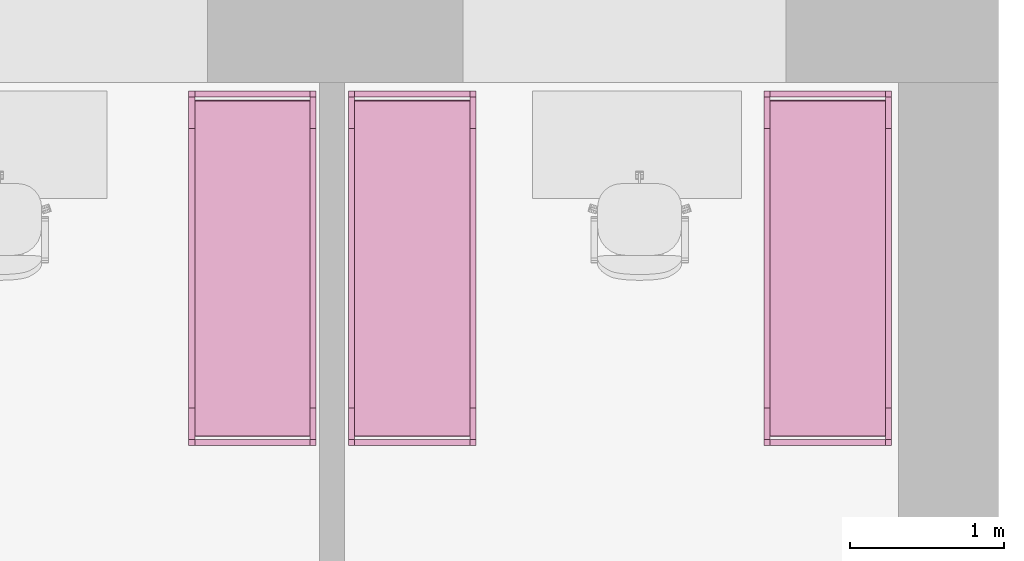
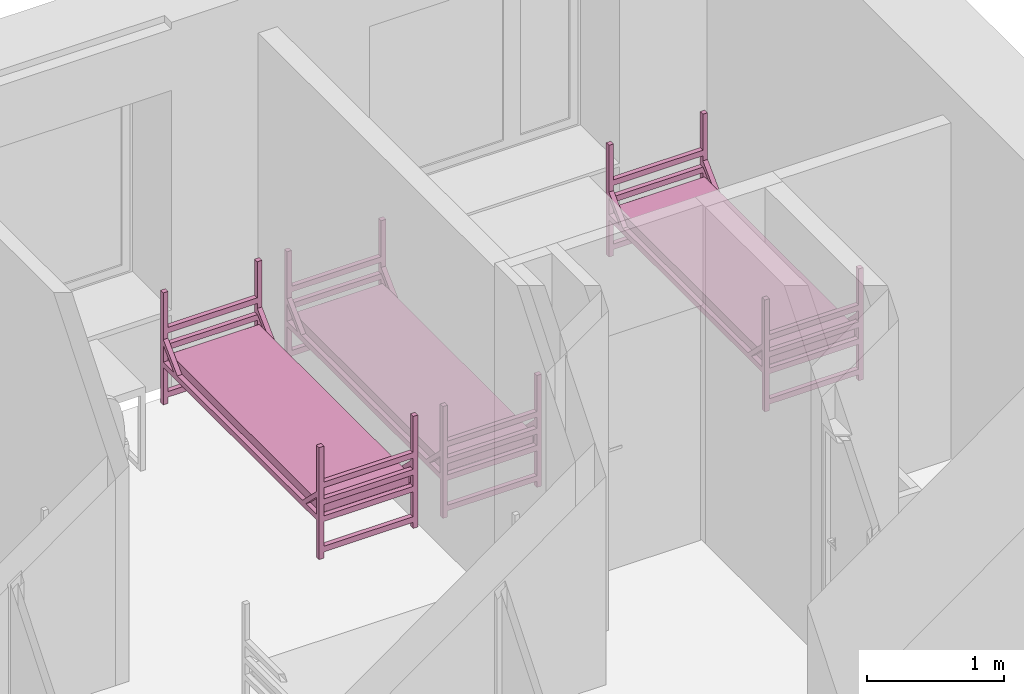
# One storey, part 46 of 48: 3 furnishings.
"""IFC2X3 building model written with IfcOpenShell, lengths in millimetres."""

import ifcopenshell
import ifcopenshell.guid

model = None  # the IFC model being written
_history = None  # IfcOwnerHistory: only IFC2X3 demands one
_inside = {}  # id of a spatial element -> (the spatial element, [elements in it])
_under = {}  # id of a project, library or spatial element -> (it, [spatial elements below it])
_declared = {}  # id of a project -> (the project, [libraries it declares])
_typed = {}  # id of a type object -> (the type object, [elements of that type])
_made_of = {}  # id of a material, layer set ... -> (it, [elements and type objects made of it])


def new_model(schema):
    """Start an empty IFC model of exactly this schema.

    Asked for "IFC4X3", IfcOpenShell would pick the latest addendum, in which some entities
    have other attributes; the version numbers below select the first issue.
    IFC2X3 requires an IfcOwnerHistory on every rooted entity: one is made here for all.
    """
    global model, _history
    if schema == "IFC4X3":
        model = ifcopenshell.file(schema_version=(4, 3, 0, 0))
    else:
        model = ifcopenshell.file(schema=schema)
    _inside.clear()
    _under.clear()
    _declared.clear()
    _typed.clear()
    _made_of.clear()
    _history = None
    if model.schema == "IFC2X3":
        org = make("IfcOrganization", Name="unknown")
        user = make(
            "IfcPersonAndOrganization",
            ThePerson=make("IfcPerson", FamilyName="unknown"),
            TheOrganization=org,
        )
        app = make(
            "IfcApplication",
            ApplicationDeveloper=org,
            Version="unknown",
            ApplicationFullName="unknown",
            ApplicationIdentifier="unknown",
        )
        _history = make(
            "IfcOwnerHistory",
            OwningUser=user,
            OwningApplication=app,
            ChangeAction="ADDED",
            CreationDate=0,
        )
    return model


def make(cls, **values):
    """One entity of the class cls with the attributes given. An attribute that is None is left unset."""
    return model.create_entity(
        cls, **{name: value for name, value in values.items() if value is not None}
    )


def entity(cls, *values):
    """Any entity or typed value of the class cls, its attributes in the order of the schema. None: left unset."""
    e = model.create_entity(cls)
    for i, value in enumerate(values):
        if value is not None:
            e[i] = value
    return e


def rooted(cls, **values):
    """An entity with a GlobalId (a new one), such as an element, a storey or a relation."""
    return make(cls, GlobalId=ifcopenshell.guid.new(), OwnerHistory=_history, **values)


def si_unit(unit_type, name, prefix=None):
    """IfcSIUnit, for example si_unit("LENGTHUNIT", "METRE", prefix="MILLI")."""
    return make("IfcSIUnit", UnitType=unit_type, Prefix=prefix, Name=name)


def converted_unit(unit_type, name, factor, base, dimensions=None, offset=None):
    """IfcConversionBasedUnit, such as the inch: factor (a typed value) times the base unit."""
    return make(
        "IfcConversionBasedUnit"
        if offset is None
        else "IfcConversionBasedUnitWithOffset",
        ConversionOffset=offset,
        Dimensions=None
        if dimensions is None
        else entity("IfcDimensionalExponents", *dimensions),
        UnitType=unit_type,
        Name=name,
        ConversionFactor=make(
            "IfcMeasureWithUnit", ValueComponent=factor, UnitComponent=base
        ),
    )


def derived_unit(unit_type, elements):
    """IfcDerivedUnit: a product of units, each with its exponent."""
    return make(
        "IfcDerivedUnit",
        Elements=[
            make("IfcDerivedUnitElement", Unit=unit, Exponent=power)
            for unit, power in elements
        ],
        UnitType=unit_type,
    )


def assignment(units):
    """IfcUnitAssignment: the units of a project."""
    return None if units is None else make("IfcUnitAssignment", Units=units)


def point(xyz):
    """IfcCartesianPoint."""
    return None if xyz is None else make("IfcCartesianPoint", Coordinates=xyz)


def direction(xyz):
    """IfcDirection."""
    return None if xyz is None else make("IfcDirection", DirectionRatios=xyz)


def frame(location, z_axis=None, x_axis=None):
    """IfcAxis2Placement3D, a coordinate frame: its origin and axes. An axis left out is left unset."""
    return make(
        "IfcAxis2Placement3D",
        Location=point(location),
        Axis=direction(z_axis),
        RefDirection=direction(x_axis),
    )


def frame_2d(location, x_axis=None):
    """IfcAxis2Placement2D, a coordinate frame in the plane: its origin and x axis."""
    return make(
        "IfcAxis2Placement2D", Location=point(location), RefDirection=direction(x_axis)
    )


def origin():
    """The frame at (0, 0, 0) with its axes left unset."""
    return frame((0.0, 0.0, 0.0))


def origin_2d_with_axis():
    """The frame at (0, 0) in the plane with the x axis (1, 0) written out."""
    return frame_2d((0.0, 0.0), x_axis=(1.0, 0.0))


def place(relative_to, where):
    """IfcLocalPlacement: puts the frame where relative to a parent placement (None: the world)."""
    return make(
        "IfcLocalPlacement", PlacementRelTo=relative_to, RelativePlacement=where
    )


def context(
    kind, dimensions, precision=None, world=None, true_north=None, identifier=None
):
    """IfcGeometricRepresentationContext, for example the 3D "Model" context."""
    return make(
        "IfcGeometricRepresentationContext",
        ContextIdentifier=identifier,
        ContextType=kind,
        CoordinateSpaceDimension=dimensions,
        Precision=precision,
        WorldCoordinateSystem=world,
        TrueNorth=true_north,
    )


def subcontext(parent, identifier, kind, view, scale=None):
    """IfcGeometricRepresentationSubContext, for example "Body" below "Model"."""
    return make(
        "IfcGeometricRepresentationSubContext",
        ContextIdentifier=identifier,
        ContextType=kind,
        ParentContext=parent,
        TargetScale=scale,
        TargetView=view,
    )


def project(units=None, contexts=None):
    """IfcProject with its units and contexts."""
    return rooted(
        "IfcProject",
        Name="project",
        RepresentationContexts=contexts,
        UnitsInContext=assignment(units),
    )


def spatial(cls, under=None, at=None, **own):
    """A site, building, storey or space (cls), placed at a placement, below another one or the project."""
    s = rooted(cls, ObjectPlacement=at, **own)
    if under is not None:
        _under.setdefault(under.id(), (under, []))[1].append(s)
    return s


def polyline(points):
    """IfcPolyline through the points."""
    return make("IfcPolyline", Points=[point(p) for p in points])


def circle_curve(where, radius):
    """IfcCircle in the frame where."""
    return make("IfcCircle", Position=where, Radius=radius)


def parameter(value):
    """IfcParameterValue: where a trimmed curve begins or ends, as a parameter of its basis curve."""
    return model.create_entity("IfcParameterValue", value)


def trimmed(basis, trim1, trim2, sense, master):
    """IfcTrimmedCurve: the piece of a basis curve between two trims."""
    return make(
        "IfcTrimmedCurve",
        BasisCurve=basis,
        Trim1=trim1,
        Trim2=trim2,
        SenseAgreement=sense,
        MasterRepresentation=master,
    )


def segment(curve, same_sense, transition):
    """IfcCompositeCurveSegment."""
    return make(
        "IfcCompositeCurveSegment",
        Transition=transition,
        SameSense=same_sense,
        ParentCurve=curve,
    )


def composite_curve(segments, self_intersect=None):
    """IfcCompositeCurve: segments joined end to end."""
    return make("IfcCompositeCurve", Segments=segments, SelfIntersect=self_intersect)


def profile(cls, at=None, kind="AREA", **sizes):
    """A parametric profile (cls). Its sizes go by their IFC names, for example OverallWidth=200.0."""
    return make(cls, ProfileType=kind, Position=at, **sizes)


def rectangle(**sizes):
    """IfcRectangleProfileDef."""
    return profile("IfcRectangleProfileDef", **sizes)


def outline(outer, holes=None, kind="AREA"):
    """IfcArbitraryClosedProfileDef: a profile drawn as a closed curve; with holes, ...WithVoids."""
    if holes is None:
        return make("IfcArbitraryClosedProfileDef", ProfileType=kind, OuterCurve=outer)
    return make(
        "IfcArbitraryProfileDefWithVoids",
        ProfileType=kind,
        OuterCurve=outer,
        InnerCurves=holes,
    )


def extrude(swept, where, along, depth):
    """IfcExtrudedAreaSolid: the profile swept, set in the frame where, extruded along a direction by depth."""
    return make(
        "IfcExtrudedAreaSolid",
        SweptArea=swept,
        Position=where,
        ExtrudedDirection=direction(along),
        Depth=depth,
    )


def shape(context_of_items, identifier, shape_type, items):
    """IfcShapeRepresentation: the items that make up one representation, for example the "Body"."""
    return make(
        "IfcShapeRepresentation",
        ContextOfItems=context_of_items,
        RepresentationIdentifier=identifier,
        RepresentationType=shape_type,
        Items=items,
    )


def source(mapping_origin, context_of_items, identifier, shape_type, items):
    """IfcRepresentationMap: a shape defined once, which mapped items show again and again."""
    return make(
        "IfcRepresentationMap",
        MappingOrigin=mapping_origin,
        MappedRepresentation=shape(context_of_items, identifier, shape_type, items),
    )


def transform(
    local_origin,
    x_axis=None,
    y_axis=None,
    z_axis=None,
    scale=None,
    scale2=None,
    scale3=None,
    uniform=True,
):
    """IfcCartesianTransformationOperator3D, or its non-uniform kind. x_axis, y_axis, z_axis: its Axis1, 2, 3."""
    if uniform:
        return make(
            "IfcCartesianTransformationOperator3D",
            Axis1=direction(x_axis),
            Axis2=direction(y_axis),
            LocalOrigin=point(local_origin),
            Scale=scale,
            Axis3=direction(z_axis),
        )
    return make(
        "IfcCartesianTransformationOperator3DnonUniform",
        Axis1=direction(x_axis),
        Axis2=direction(y_axis),
        LocalOrigin=point(local_origin),
        Scale=scale,
        Axis3=direction(z_axis),
        Scale2=scale2,
        Scale3=scale3,
    )


def mapped(mapping_source, mapping_target):
    """IfcMappedItem: shows the shape of a source again, moved by a transform."""
    return make(
        "IfcMappedItem", MappingSource=mapping_source, MappingTarget=mapping_target
    )


def material(Name=None, Category=None):
    """IfcMaterial."""
    return make("IfcMaterial", Name=Name, Category=Category)


def made_of(thing, what):
    """Note that an element or type object is made of a material, layer set ...; save() writes the relation."""
    if what is not None:
        _made_of.setdefault(what.id(), (what, []))[1].append(thing)
    return thing


def type_object(cls, material=None, **own):
    """A type object (cls), such as IfcWallType, which elements share."""
    return made_of(rooted(cls, **own), material)


def type_shapes(of_type, sources):
    """Give a type object the sources (RepresentationMaps) that its elements show as mapped items."""
    of_type.RepresentationMaps = sources


def element(
    cls,
    number,
    at=None,
    inside=None,
    cuts=None,
    type_object=None,
    material=None,
    context=None,
    identifier="Body",
    shape_type=None,
    held_by="IfcProductDefinitionShape",
    body=None,
    shapes=None,
    **own,
):
    """One element of the class cls, such as IfcWall. Its Tag is "e" and its number.

    at: its placement. inside: the storey or other place that contains it. cuts: it is an
    opening in that element (IfcRelVoidsElement). A single representation is given by context,
    identifier, shape_type and body (its items); several are given by shapes. held_by: the class
    of the entity that holds the representations. save() writes the other relations.
    """
    e = rooted(cls, Tag="e%d" % number, ObjectPlacement=at, **own)
    if body is not None:
        shapes = [shape(context, identifier, shape_type, body)]
    if shapes is not None:
        e.Representation = make(held_by, Representations=shapes)
    if inside is not None:
        _inside.setdefault(inside.id(), (inside, []))[1].append(e)
    if cuts is not None:
        rooted(
            "IfcRelVoidsElement", RelatingBuildingElement=cuts, RelatedOpeningElement=e
        )
    if type_object is not None:
        _typed.setdefault(type_object.id(), (type_object, []))[1].append(e)
    return made_of(e, material)


def aggregate(whole, parts):
    """IfcRelAggregates: a whole, such as a stair, and the parts it consists of."""
    return rooted("IfcRelAggregates", RelatingObject=whole, RelatedObjects=parts)


def save(model, path):
    """Write the relations noted so far, then the file.

    IfcRelAggregates (storeys below a building ...), IfcRelContainedInSpatialStructure (elements
    in a storey), IfcRelDefinesByType, IfcRelAssociatesMaterial and IfcRelDeclares: one each for
    every whole, place, type object, material and project.
    """
    for whole, parts in _under.values():
        aggregate(whole, parts)
    for where, things in _inside.values():
        rooted(
            "IfcRelContainedInSpatialStructure",
            RelatedElements=things,
            RelatingStructure=where,
        )
    for kind, things in _typed.values():
        rooted("IfcRelDefinesByType", RelatedObjects=things, RelatingType=kind)
    for what, things in _made_of.values():
        rooted("IfcRelAssociatesMaterial", RelatedObjects=things, RelatingMaterial=what)
    for by, libraries in _declared.values():
        rooted("IfcRelDeclares", RelatingContext=by, RelatedDefinitions=libraries)
    model.write(path)


model = new_model("IFC2X3")

# Units and contexts
model_context = context("Model", 3, precision=0.01, world=origin(), true_north=direction((6.12303176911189e-17, 1.0)))
body_context = subcontext(model_context, "Body", "Model", "MODEL_VIEW")
ifc_project = project(units=[si_unit("LENGTHUNIT", "METRE", prefix="MILLI"), si_unit("AREAUNIT", "SQUARE_METRE"), si_unit("VOLUMEUNIT", "CUBIC_METRE"), converted_unit("PLANEANGLEUNIT", "DEGREE", entity("IfcRatioMeasure", 0.0174532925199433), si_unit("PLANEANGLEUNIT", "RADIAN"), dimensions=[0, 0, 0, 0, 0, 0, 0]), si_unit("MASSUNIT", "GRAM", prefix="KILO"), derived_unit("MASSDENSITYUNIT", [(si_unit("MASSUNIT", "GRAM", prefix="KILO"), 1), (si_unit("LENGTHUNIT", "METRE"), -3)]), si_unit("TIMEUNIT", "SECOND"), si_unit("FREQUENCYUNIT", "HERTZ"), si_unit("THERMODYNAMICTEMPERATUREUNIT", "DEGREE_CELSIUS"), derived_unit("THERMALTRANSMITTANCEUNIT", [(si_unit("MASSUNIT", "GRAM", prefix="KILO"), 1), (si_unit("THERMODYNAMICTEMPERATUREUNIT", "KELVIN"), -1), (si_unit("TIMEUNIT", "SECOND"), -3)]), derived_unit("VOLUMETRICFLOWRATEUNIT", [(si_unit("LENGTHUNIT", "METRE"), 3), (si_unit("TIMEUNIT", "SECOND"), -1)]), si_unit("ELECTRICCURRENTUNIT", "AMPERE"), si_unit("ELECTRICVOLTAGEUNIT", "VOLT"), si_unit("POWERUNIT", "WATT"), si_unit("FORCEUNIT", "NEWTON", prefix="KILO"), si_unit("ILLUMINANCEUNIT", "LUX"), si_unit("LUMINOUSFLUXUNIT", "LUMEN"), si_unit("LUMINOUSINTENSITYUNIT", "CANDELA"), derived_unit("USERDEFINED", [(si_unit("MASSUNIT", "GRAM", prefix="KILO"), -1), (si_unit("LENGTHUNIT", "METRE"), -2), (si_unit("TIMEUNIT", "SECOND"), 3), (si_unit("LUMINOUSFLUXUNIT", "LUMEN"), 1)]), derived_unit("LINEARVELOCITYUNIT", [(si_unit("LENGTHUNIT", "METRE"), 1), (si_unit("TIMEUNIT", "SECOND"), -1)]), si_unit("PRESSUREUNIT", "PASCAL"), derived_unit("USERDEFINED", [(si_unit("LENGTHUNIT", "METRE"), -2), (si_unit("MASSUNIT", "GRAM", prefix="KILO"), 1), (si_unit("TIMEUNIT", "SECOND"), -2)]), derived_unit("LINEARFORCEUNIT", [(si_unit("MASSUNIT", "GRAM", prefix="KILO"), 1), (si_unit("LENGTHUNIT", "METRE"), 1), (si_unit("TIMEUNIT", "SECOND"), -2), (si_unit("LENGTHUNIT", "METRE"), -1)]), derived_unit("PLANARFORCEUNIT", [(si_unit("MASSUNIT", "GRAM", prefix="KILO"), 1), (si_unit("LENGTHUNIT", "METRE"), 1), (si_unit("TIMEUNIT", "SECOND"), -2), (si_unit("LENGTHUNIT", "METRE"), -2)])], contexts=[model_context])

# Site, building, storey, space
site_placement = place(None, origin())
site = spatial("IfcSite", under=ifc_project, at=site_placement, Name="Default", CompositionType="ELEMENT")
building_placement = place(site_placement, origin())
building = spatial("IfcBuilding", under=site, at=building_placement, Name="SMA ARH", CompositionType="ELEMENT")
storey_placement = place(building_placement, frame((0.0, 0.0, 3300.0)))
storey = spatial("IfcBuildingStorey", under=building, at=storey_placement, Name="2 Korrus", CompositionType="ELEMENT", Elevation=3299.99999999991)
space_1_placement = place(storey_placement, origin())
space_1 = spatial("IfcSpace", under=storey, at=space_1_placement, Name="2-31/1", CompositionType="ELEMENT", InteriorOrExteriorSpace="INTERNAL")

# Furnishings
ifc_material = material(Name="Madrats")
furniture_type_1 = type_object("IfcFurnitureType", Name="Kasarmu voodi ühekordne 2308x830:Kasarmu voodi ühekordne 2308x830", material=ifc_material)
shared_shape_1 = source(origin(), body_context, "Body", "SweptSolid", [
    extrude(rectangle(XDim=39.9999999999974, YDim=750.000000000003, at=frame_2d((-1.35003119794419e-13, -2.8421709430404e-14), x_axis=(1.0, 0.0))), frame((1.68638457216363, -1226.7969571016, 55.0), z_axis=(0.0, 0.0, 1.0), x_axis=(0.0, -1.0, 0.0)), (0.0, 0.0, 1.0), 49.9999999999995),
    extrude(rectangle(XDim=39.9999999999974, YDim=750.000000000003, at=frame_2d((-1.35003119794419e-13, -2.8421709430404e-14), x_axis=(1.0, 0.0))), frame((1.68638457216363, -1226.7969571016, 325.0), z_axis=(0.0, 0.0, 1.0), x_axis=(0.0, -1.0, 0.0)), (0.0, 0.0, 1.0), 49.9999999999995),
    extrude(rectangle(XDim=39.9999999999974, YDim=750.000000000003, at=frame_2d((-1.35003119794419e-13, -2.8421709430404e-14), x_axis=(1.0, 0.0))), frame((1.68638457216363, -1226.7969571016, 475.0), z_axis=(0.0, 0.0, 1.0), x_axis=(0.0, -1.0, 0.0)), (0.0, 0.0, 1.0), 49.9999999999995),
    extrude(rectangle(XDim=39.9999999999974, YDim=750.000000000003, at=frame_2d((-1.35003119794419e-13, -2.8421709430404e-14), x_axis=(1.0, 0.0))), frame((1.68638457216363, -1226.7969571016, 625.0), z_axis=(0.0, 0.0, 1.0), x_axis=(0.0, -1.0, 0.0)), (0.0, 0.0, 1.0), 50.0000000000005),
    extrude(rectangle(XDim=39.9999999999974, YDim=750.000000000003, at=frame_2d((1.35003119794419e-13, -2.8421709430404e-14), x_axis=(1.0, 0.0))), frame((1.68638457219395, 1041.2030428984, 55.0), z_axis=(0.0, 0.0, 1.0), x_axis=(0.0, -1.0, 0.0)), (0.0, 0.0, 1.0), 50.0000000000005),
    extrude(rectangle(XDim=39.9999999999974, YDim=750.000000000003, at=frame_2d((1.35003119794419e-13, -2.8421709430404e-14), x_axis=(1.0, 0.0))), frame((1.68638457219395, 1041.2030428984, 325.0), z_axis=(0.0, 0.0, 1.0), x_axis=(0.0, -1.0, 0.0)), (0.0, 0.0, 1.0), 50.0000000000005),
    extrude(rectangle(XDim=39.9999999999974, YDim=750.000000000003, at=frame_2d((1.35003119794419e-13, -2.8421709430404e-14), x_axis=(1.0, 0.0))), frame((1.68638457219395, 1041.2030428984, 475.0), z_axis=(0.0, 0.0, 1.0), x_axis=(0.0, -1.0, 0.0)), (0.0, 0.0, 1.0), 50.0000000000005),
    extrude(rectangle(XDim=39.9999999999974, YDim=750.000000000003, at=frame_2d((1.35003119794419e-13, -2.8421709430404e-14), x_axis=(1.0, 0.0))), frame((1.68638457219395, 1041.2030428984, 625.0), z_axis=(0.0, 0.0, 1.0), x_axis=(0.0, -1.0, 0.0)), (0.0, 0.0, 1.0), 49.9999999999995),
    extrude(outline(composite_curve([segment(trimmed(circle_curve(frame_2d((1085.0, -40.0), x_axis=(1.0, 0.0)), 10.0), [parameter(270.0)], [parameter(0.0)], True, "PARAMETER"), True, "CONTINUOUS"), segment(polyline([(1095.0, -40.0), (1095.0, 40.0)]), True, "CONTINUOUS"), segment(trimmed(circle_curve(frame_2d((1085.0, 40.0), x_axis=(1.0, 0.0)), 10.0), [parameter(0.0)], [parameter(90.0000000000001)], True, "PARAMETER"), True, "CONTINUOUS"), segment(polyline([(1085.0, 50.0), (-1085.0, 50.0)]), True, "CONTINUOUS"), segment(trimmed(circle_curve(frame_2d((-1085.0, 40.0), x_axis=(1.0, 0.0)), 10.0), [parameter(90.0000000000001)], [parameter(180.0)], True, "PARAMETER"), True, "CONTINUOUS"), segment(polyline([(-1095.0, 40.0), (-1095.0, -40.0)]), True, "CONTINUOUS"), segment(trimmed(circle_curve(frame_2d((-1085.0, -40.0), x_axis=(1.0, 0.0)), 10.0), [parameter(180.0)], [parameter(270.0)], True, "PARAMETER"), True, "CONTINUOUS"), segment(polyline([(-1085.0, -50.0), (1085.0, -50.0)]), True, "CONTINUOUS")], self_intersect=False)), frame((-373.313615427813, -92.7969571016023, 405.0), z_axis=(1.0, 0.0, 0.0), x_axis=(0.0, -1.0, 0.0)), (0.0, 0.0, 1.0), 750.000000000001),
    extrude(outline(polyline([(-1114.0, -100.0), (1114.0, -100.0), (1114.0, -50.0), (961.59199141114, -50.0), (1114.0, 100.0), (1114.0, 150.0), (910.789321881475, -50.0), (-910.789321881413, -50.0), (-1114.0, 150.0), (-1114.0, 100.0), (-961.591991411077, -50.0), (-1114.0, -50.0), (-1114.0, -100.0)])), frame((-413.313615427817, -92.7969571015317, 430.0), z_axis=(1.0, 0.0, 0.0), x_axis=(0.0, 1.0, 0.0)), (0.0, 0.0, 1.0), 39.9999999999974),
    extrude(outline(polyline([(-1114.0, -100.0), (1114.0, -100.0), (1114.0, -50.0), (961.591991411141, -50.0), (1114.0, 100.0), (1114.0, 150.0), (910.789321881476, -50.0), (-910.789321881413, -50.0), (-1114.0, 150.0), (-1114.0, 100.0), (-961.591991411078, -50.0), (-1114.0, -50.0), (-1114.0, -100.0)])), frame((376.686384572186, -92.796957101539, 430.0), z_axis=(1.0, 0.0, 0.0), x_axis=(0.0, 1.0, 0.0)), (0.0, 0.0, 1.0), 39.9999999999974),
    extrude(rectangle(XDim=39.9999999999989, YDim=39.9999999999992, at=frame_2d((-6.75015598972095e-14, 0.0), x_axis=(1.0, 0.0))), frame((396.686384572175, -1226.79695710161, 0.0), z_axis=(0.0, 0.0, 1.0), x_axis=(0.0, 1.0, 0.0)), (0.0, 0.0, 1.0), 995.0),
    extrude(rectangle(XDim=39.9999999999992, YDim=39.9999999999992, at=frame_2d((-1.35003119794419e-13, 0.0), x_axis=(1.0, 0.0))), frame((396.686384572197, 1041.20304289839, 0.0), z_axis=(0.0, 0.0, 1.0), x_axis=(0.0, 1.0, 0.0)), (0.0, 0.0, 1.0), 995.0),
    extrude(rectangle(XDim=40.0000000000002, YDim=39.9999999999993, at=frame_2d((-1.35003119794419e-13, 0.0), x_axis=(1.0, 0.0))), frame((-393.313615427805, 1041.2030428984, 0.0), z_axis=(0.0, 0.0, 1.0), x_axis=(0.0, 1.0, 0.0)), (0.0, 0.0, 1.0), 995.0),
    extrude(rectangle(XDim=39.9999999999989, YDim=39.9999999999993, at=frame_2d((-6.75015598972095e-14, 0.0), x_axis=(1.0, 0.0))), frame((-393.313615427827, -1226.7969571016, 0.0), z_axis=(0.0, 0.0, 1.0), x_axis=(0.0, 1.0, 0.0)), (0.0, 0.0, 1.0), 995.0),
])
type_shapes(furniture_type_1, [shared_shape_1])
for number, where, z_axis, x_axis, name in (
    (1, (35149.7939213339, 11199.8894274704, 0.0), (0.0, 0.0, 1.0), (-1.0, 0.0, 0.0), "Kasarmu voodi ühekordne 2308x830:Kasarmu voodi ühekordne 2308x830"),
    (2, (37855.0, 11199.8894274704, 0.0), (0.0, 0.0, 1.0), (-1.0, 0.0, 0.0), "Kasarmu voodi ühekordne 2308x830:Kasarmu voodi ühekordne 2308x830"),
):
    element("IfcFurnishingElement", number, at=place(space_1_placement, frame(where, z_axis=z_axis, x_axis=x_axis)), inside=space_1, type_object=furniture_type_1, material=ifc_material, Name=name, ObjectType="Kasarmu voodi ühekordne 2308x830:Kasarmu voodi ühekordne 2308x830", context=body_context, shape_type="MappedRepresentation", body=[
        mapped(shared_shape_1, transform((0.0, 0.0, 0.0), scale=1.0)),
    ])

# Space
space_2_placement = place(storey_placement, origin())
space_2 = spatial("IfcSpace", under=storey, at=space_2_placement, Name="2-31", CompositionType="ELEMENT", InteriorOrExteriorSpace="INTERNAL")

# Furnishing
furniture_type_2 = type_object("IfcFurnitureType", Name="Kasarmu voodi ühekordne 2308x830:Kasarmu voodi ühekordne 2308x830", material=ifc_material)
shared_shape_2 = source(origin(), body_context, "Body", "SweptSolid", [
    extrude(rectangle(XDim=750.000000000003, YDim=39.9999999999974, at=frame_2d((0.0, 1.35003119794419e-13), x_axis=(1.0, 0.0))), frame((1.68638457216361, 1226.7969571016, 55.0)), (0.0, 0.0, 1.0), 49.9999999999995),
    extrude(rectangle(XDim=750.000000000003, YDim=39.9999999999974, at=frame_2d((0.0, 1.35003119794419e-13), x_axis=(1.0, 0.0))), frame((1.68638457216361, 1226.7969571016, 325.0)), (0.0, 0.0, 1.0), 49.9999999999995),
    extrude(rectangle(XDim=750.000000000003, YDim=39.9999999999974, at=frame_2d((0.0, 1.35003119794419e-13), x_axis=(1.0, 0.0))), frame((1.68638457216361, 1226.7969571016, 475.0)), (0.0, 0.0, 1.0), 49.9999999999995),
    extrude(rectangle(XDim=750.000000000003, YDim=39.9999999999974, at=frame_2d((0.0, 1.35003119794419e-13), x_axis=(1.0, 0.0))), frame((1.68638457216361, 1226.7969571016, 625.0)), (0.0, 0.0, 1.0), 50.0000000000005),
    extrude(rectangle(XDim=750.000000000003, YDim=39.9999999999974, at=origin_2d_with_axis()), frame((1.68638457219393, -1041.2030428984, 55.0)), (0.0, 0.0, 1.0), 50.0000000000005),
    extrude(rectangle(XDim=750.000000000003, YDim=39.9999999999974, at=origin_2d_with_axis()), frame((1.68638457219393, -1041.2030428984, 325.0)), (0.0, 0.0, 1.0), 50.0000000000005),
    extrude(rectangle(XDim=750.000000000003, YDim=39.9999999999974, at=origin_2d_with_axis()), frame((1.68638457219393, -1041.2030428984, 475.0)), (0.0, 0.0, 1.0), 50.0000000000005),
    extrude(rectangle(XDim=750.000000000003, YDim=39.9999999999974, at=origin_2d_with_axis()), frame((1.68638457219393, -1041.2030428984, 625.0)), (0.0, 0.0, 1.0), 49.9999999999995),
    extrude(outline(composite_curve([segment(polyline([(-1085.0, -50.0), (1085.0, -50.0)]), True, "CONTINUOUS"), segment(trimmed(circle_curve(frame_2d((1085.0, -40.0), x_axis=(-1.0, 0.0)), 10.0), [parameter(90.0000000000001)], [parameter(180.0)], True, "PARAMETER"), True, "CONTINUOUS"), segment(polyline([(1095.0, -40.0), (1095.0, 40.0)]), True, "CONTINUOUS"), segment(trimmed(circle_curve(frame_2d((1085.0, 40.0), x_axis=(-1.0, 0.0)), 10.0), [parameter(180.0)], [parameter(270.0)], True, "PARAMETER"), True, "CONTINUOUS"), segment(polyline([(1085.0, 50.0), (-1085.0, 50.0)]), True, "CONTINUOUS"), segment(trimmed(circle_curve(frame_2d((-1085.0, 40.0), x_axis=(-1.0, 0.0)), 10.0), [parameter(270.0)], [parameter(0.0)], True, "PARAMETER"), True, "CONTINUOUS"), segment(polyline([(-1095.0, 40.0), (-1095.0, -40.0)]), True, "CONTINUOUS"), segment(trimmed(circle_curve(frame_2d((-1085.0, -40.0), x_axis=(-1.0, 0.0)), 10.0), [parameter(0.0)], [parameter(90.0000000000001)], True, "PARAMETER"), True, "CONTINUOUS")], self_intersect=False)), frame((-373.313615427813, 92.7969571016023, 405.0), z_axis=(1.0, 0.0, 0.0), x_axis=(0.0, -1.0, 0.0)), (0.0, 0.0, 1.0), 750.000000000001),
    extrude(outline(polyline([(-100.0, -1114.0), (-50.0, -1114.0), (-50.0, -961.591991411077), (100.0, -1114.0), (150.0, -1114.0), (-50.0, -910.789321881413), (-50.0, 910.789321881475), (150.0, 1114.0), (100.0, 1114.0), (-50.0, 961.591991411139), (-50.0, 1114.0), (-100.0, 1114.0), (-100.0, -1114.0)])), frame((-413.313615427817, 92.7969571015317, 430.0), z_axis=(1.0, 0.0, 0.0), x_axis=(0.0, 0.0, 1.0)), (0.0, 0.0, 1.0), 39.9999999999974),
    extrude(outline(polyline([(-100.0, -1114.0), (-50.0, -1114.0), (-50.0, -961.591991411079), (100.0, -1114.0), (150.0, -1114.0), (-50.0, -910.789321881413), (-50.0, 910.789321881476), (150.0, 1114.0), (100.0, 1114.0), (-50.0, 961.591991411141), (-50.0, 1114.0), (-100.0, 1114.0), (-100.0, -1114.0)])), frame((376.686384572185, 92.796957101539, 430.0), z_axis=(1.0, 0.0, 0.0), x_axis=(0.0, 0.0, 1.0)), (0.0, 0.0, 1.0), 39.9999999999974),
    extrude(rectangle(XDim=39.9999999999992, YDim=39.9999999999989, at=frame_2d((0.0, -6.75015598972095e-14), x_axis=(1.0, 0.0))), frame((396.686384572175, 1226.79695710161, 0.0), z_axis=(0.0, 0.0, 1.0), x_axis=(-1.0, 0.0, 0.0)), (0.0, 0.0, 1.0), 995.0),
    extrude(rectangle(XDim=39.9999999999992, YDim=39.9999999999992, at=origin_2d_with_axis()), frame((396.686384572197, -1041.20304289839, 0.0), z_axis=(0.0, 0.0, 1.0), x_axis=(-1.0, 0.0, 0.0)), (0.0, 0.0, 1.0), 995.0),
    extrude(rectangle(XDim=39.9999999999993, YDim=40.0000000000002, at=origin_2d_with_axis()), frame((-393.313615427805, -1041.2030428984, 0.0), z_axis=(0.0, 0.0, 1.0), x_axis=(-1.0, 0.0, 0.0)), (0.0, 0.0, 1.0), 995.0),
    extrude(rectangle(XDim=39.9999999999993, YDim=39.9999999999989, at=frame_2d((0.0, -6.75015598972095e-14), x_axis=(1.0, 0.0))), frame((-393.313615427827, 1226.7969571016, 0.0), z_axis=(0.0, 0.0, 1.0), x_axis=(-1.0, 0.0, 0.0)), (0.0, 0.0, 1.0), 995.0),
])
type_shapes(furniture_type_2, [shared_shape_2])
furnishing_placement = place(space_2_placement, frame((34106.2060786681, 11199.8894274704, 0.0)))
element("IfcFurnishingElement", 3, at=furnishing_placement, inside=space_2, type_object=furniture_type_2, material=ifc_material, Name="Kasarmu voodi ühekordne 2308x830:Kasarmu voodi ühekordne 2308x830", ObjectType="Kasarmu voodi ühekordne 2308x830:Kasarmu voodi ühekordne 2308x830", context=body_context, shape_type="MappedRepresentation", body=[
    mapped(shared_shape_2, transform((0.0, 0.0, 0.0), scale=1.0)),
])

save(model, "model.ifc")
